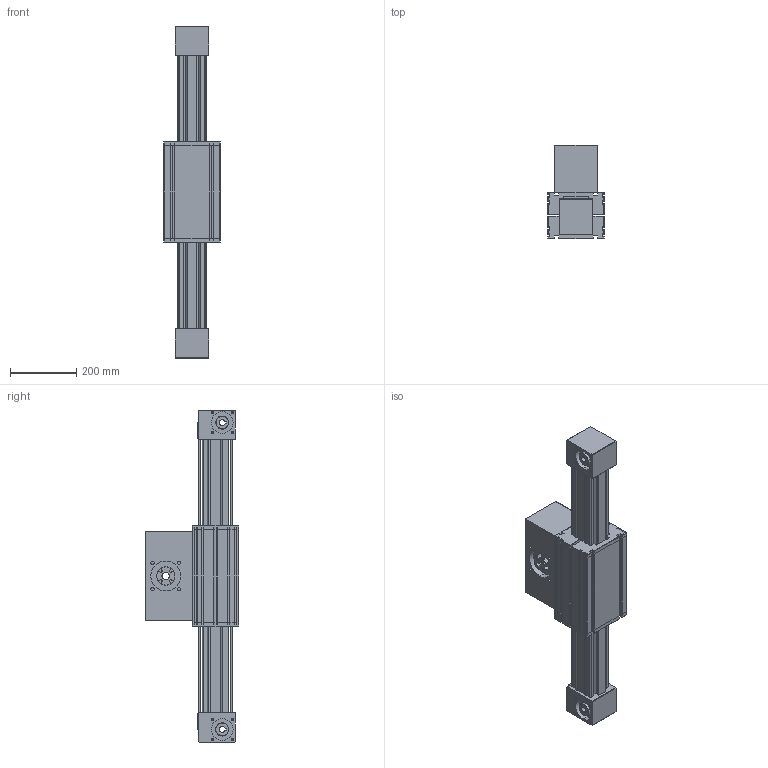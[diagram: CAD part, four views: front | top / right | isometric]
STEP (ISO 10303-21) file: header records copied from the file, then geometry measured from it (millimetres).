
FILE_DESCRIPTION (( 'STEP AP214' ), '1' );
FILE_NAME ('ELZT80.STEP', '2022-07-19T13:07:10', ( '' ), ( '' ), 'SwSTEP 2.0', 'SolidWorks 2020', '' );
FILE_SCHEMA (( 'AUTOMOTIVE_DESIGN' ));
Length unit declared in the file: millimetre
Products named in the file (5): ELZT80; timing belt reverse unit ^ELZT80_coupling claw pos.1; timing belt reverse unit carriage^ELZT80_coupling claw pos.2; profile^ELZT80_0; carriage^ELZT80_carriage version 0
Assembly tree (6 placements, depth 2):
  ELZT80
    profile^ELZT80_0
    carriage^ELZT80_carriage version 0  x2
    timing belt reverse unit carriage^ELZT80_coupling claw pos.2
    timing belt reverse unit ^ELZT80_coupling claw pos.1  x2
Bounding box: 170 x 282 x 1000 mm (x, y, z)
Volume: 16054840.8 mm3; surface area: 1553155.8 mm2
Topology: 16 solids, 16 shells, 1058 faces, 2830 edges, 1758 vertices
Faces by surface type: plane 581, cylinder 367, cone 42, bspline 32, sphere 20, torus 16
Entity records: 22217 total; most frequent: CARTESIAN_POINT 3802, DIRECTION 3202, ORIENTED_EDGE 3172, EDGE_CURVE 1586, LINE 1118, VECTOR 1118, AXIS2_PLACEMENT_3D 1042, VERTEX_POINT 1018
